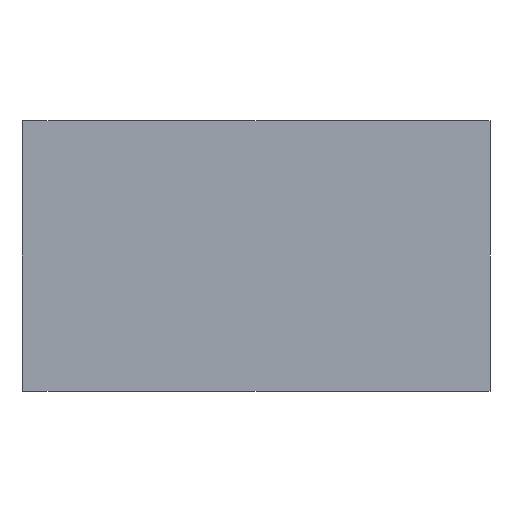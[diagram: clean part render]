
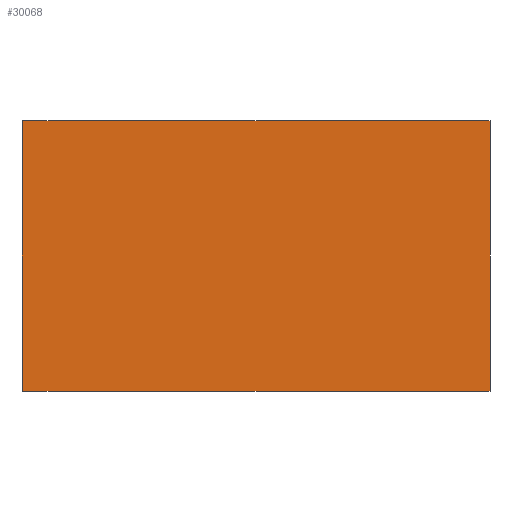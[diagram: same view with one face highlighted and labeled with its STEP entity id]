
A CAD part, front view. The second image highlights one B-rep face of the part: STEP entity #30068.
In plain terms, the highlighted planar face has unit normal (0, -1, 0).
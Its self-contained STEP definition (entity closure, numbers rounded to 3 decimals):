
#2404 = FACE_OUTER_BOUND ( 'NONE', #88714, .T. ) ;
#3372 = DIRECTION ( 'NONE',  ( 0., 0., 1. ) ) ;
#10590 = DIRECTION ( 'NONE',  ( 0., 0., -1. ) ) ;
#14592 = VERTEX_POINT ( 'NONE', #66579 ) ;
#17658 = CARTESIAN_POINT ( 'NONE',  ( 204.769, 148.831, 100. ) ) ;
#22341 = VECTOR ( 'NONE', #32898, 1000. ) ;
#24782 = DIRECTION ( 'NONE',  ( 0., 0., -1. ) ) ;
#24838 = LINE ( 'NONE', #64251, #22341 ) ;
#25248 = EDGE_CURVE ( 'NONE', #80968, #14592, #29324, .T. ) ;
#25614 = LINE ( 'NONE', #80748, #65487 ) ;
#29324 = LINE ( 'NONE', #82342, #71638 ) ;
#30068 = ADVANCED_FACE ( 'NONE', ( #2404 ), #90703, .F. ) ;
#31845 = ORIENTED_EDGE ( 'NONE', *, *, #90275, .F. ) ;
#32442 = CARTESIAN_POINT ( 'NONE',  ( 204.769, 148.831, 100. ) ) ;
#32898 = DIRECTION ( 'NONE',  ( 1., 0., 0. ) ) ;
#33987 = ORIENTED_EDGE ( 'NONE', *, *, #25248, .T. ) ;
#36193 = ORIENTED_EDGE ( 'NONE', *, *, #46173, .F. ) ;
#36802 = LINE ( 'NONE', #32442, #55488 ) ;
#43098 = CARTESIAN_POINT ( 'NONE',  ( 118.269, 148.831, 100. ) ) ;
#46173 = EDGE_CURVE ( 'NONE', #80968, #87042, #25614, .T. ) ;
#51063 = DIRECTION ( 'NONE',  ( 0., 1., 0. ) ) ;
#54068 = CARTESIAN_POINT ( 'NONE',  ( 31.769, 148.831, 100. ) ) ;
#54878 = CARTESIAN_POINT ( 'NONE',  ( 204.769, 148.831, 0. ) ) ;
#55488 = VECTOR ( 'NONE', #24782, 1000. ) ;
#58375 = EDGE_CURVE ( 'NONE', #14592, #83809, #24838, .T. ) ;
#64251 = CARTESIAN_POINT ( 'NONE',  ( 118.269, 148.831, 0. ) ) ;
#65487 = VECTOR ( 'NONE', #88713, 1000. ) ;
#66579 = CARTESIAN_POINT ( 'NONE',  ( 31.769, 148.831, 0. ) ) ;
#71547 = ORIENTED_EDGE ( 'NONE', *, *, #58375, .T. ) ;
#71638 = VECTOR ( 'NONE', #10590, 1000. ) ;
#78633 = AXIS2_PLACEMENT_3D ( 'NONE', #43098, #51063, #3372 ) ;
#80748 = CARTESIAN_POINT ( 'NONE',  ( 118.269, 148.831, 100. ) ) ;
#80968 = VERTEX_POINT ( 'NONE', #54068 ) ;
#82342 = CARTESIAN_POINT ( 'NONE',  ( 31.769, 148.831, 100. ) ) ;
#83809 = VERTEX_POINT ( 'NONE', #54878 ) ;
#87042 = VERTEX_POINT ( 'NONE', #17658 ) ;
#88713 = DIRECTION ( 'NONE',  ( 1., 0., 0. ) ) ;
#88714 = EDGE_LOOP ( 'NONE', ( #71547, #31845, #36193, #33987 ) ) ;
#90275 = EDGE_CURVE ( 'NONE', #87042, #83809, #36802, .T. ) ;
#90703 = PLANE ( 'NONE',  #78633 ) ;
